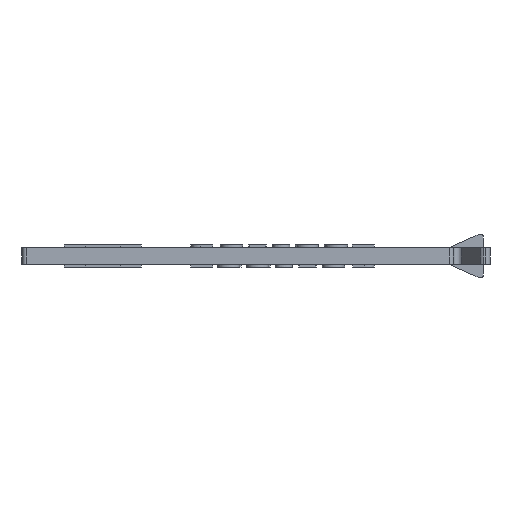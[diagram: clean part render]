
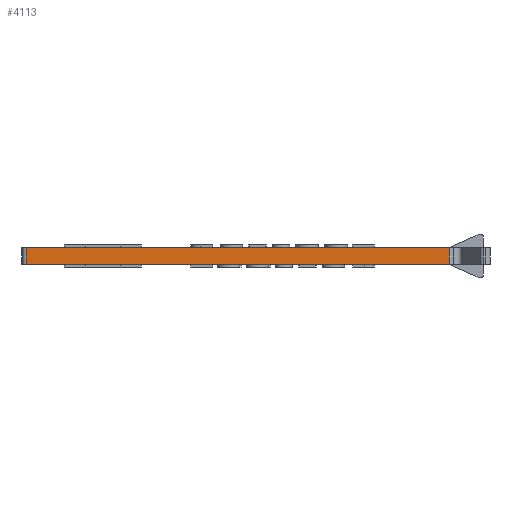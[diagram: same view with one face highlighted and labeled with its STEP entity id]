
A CAD part, front view. The second image highlights one B-rep face of the part: STEP entity #4113.
In plain terms, the highlighted planar face has unit normal (0, -1, 0).
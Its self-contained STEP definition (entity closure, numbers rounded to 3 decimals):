
#1256=DIRECTION('',(0.,0.,1.));
#1257=VECTOR('',#1256,2.);
#1258=CARTESIAN_POINT('',(50.5,0.,0.));
#1259=LINE('',#1258,#1257);
#1260=DIRECTION('',(-1.,0.,0.));
#1261=VECTOR('',#1260,50.);
#1262=CARTESIAN_POINT('',(50.5,0.,0.));
#1263=LINE('',#1262,#1261);
#1264=DIRECTION('',(1.,0.,0.));
#1265=VECTOR('',#1264,50.);
#1266=CARTESIAN_POINT('',(0.5,0.,2.));
#1267=LINE('',#1266,#1265);
#1268=DIRECTION('',(0.,0.,1.));
#1269=VECTOR('',#1268,2.);
#1270=CARTESIAN_POINT('',(0.5,0.,0.));
#1271=LINE('',#1270,#1269);
#2878=CARTESIAN_POINT('',(0.5,0.,0.));
#2880=VERTEX_POINT('',#2878);
#2886=CARTESIAN_POINT('',(0.5,0.,2.));
#2888=VERTEX_POINT('',#2886);
#2950=CARTESIAN_POINT('',(50.5,0.,2.));
#2952=VERTEX_POINT('',#2950);
#2956=CARTESIAN_POINT('',(50.5,0.,0.));
#2957=VERTEX_POINT('',#2956);
#4101=CARTESIAN_POINT('',(54.5,0.,0.));
#4102=DIRECTION('',(0.,-1.,0.));
#4103=DIRECTION('',(-1.,0.,0.));
#4104=AXIS2_PLACEMENT_3D('',#4101,#4102,#4103);
#4105=PLANE('',#4104);
#4106=ORIENTED_EDGE('',*,*,#4096,.F.);
#4107=ORIENTED_EDGE('',*,*,#3357,.T.);
#4109=ORIENTED_EDGE('',*,*,#4108,.T.);
#4110=ORIENTED_EDGE('',*,*,#3752,.T.);
#4111=EDGE_LOOP('',(#4106,#4107,#4109,#4110));
#4112=FACE_OUTER_BOUND('',#4111,.F.);
#4113=ADVANCED_FACE('',(#4112),#4105,.T.);
#3357=EDGE_CURVE('',#2957,#2880,#1263,.T.);
#3752=EDGE_CURVE('',#2888,#2952,#1267,.T.);
#4096=EDGE_CURVE('',#2957,#2952,#1259,.T.);
#4108=EDGE_CURVE('',#2880,#2888,#1271,.T.);
